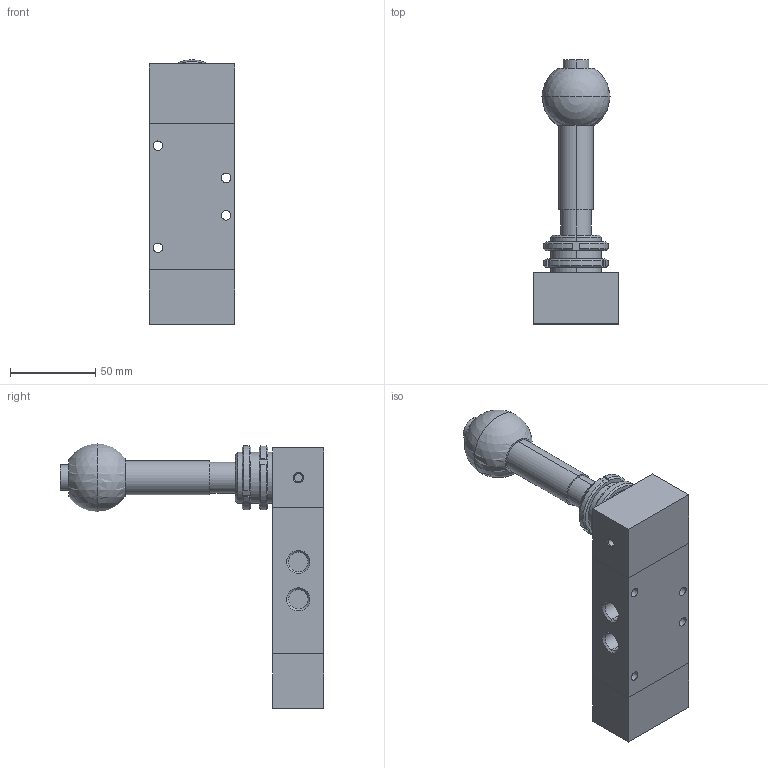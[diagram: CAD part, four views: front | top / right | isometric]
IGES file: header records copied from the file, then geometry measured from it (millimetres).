
Global section: file name: No Iges File Name specified; native system: AutoDesk Inventor R11.0; preprocessor: AutoDesk Inventor Iges Exporter R11.0; author: No Author specified; organization: No Organization specified; date: 20061220.115553; units: millimetre
Bounding box: 50 x 155 x 155.5 mm (x, y, z)
Volume: 292325 mm3; surface area: 45782.4 mm2
Topology: 3 solids, 3 shells, 128 faces, 302 edges, 192 vertices
Faces by surface type: plane 44, bspline 38, revolution 16, cylinder 14, cone 14, sphere 2
